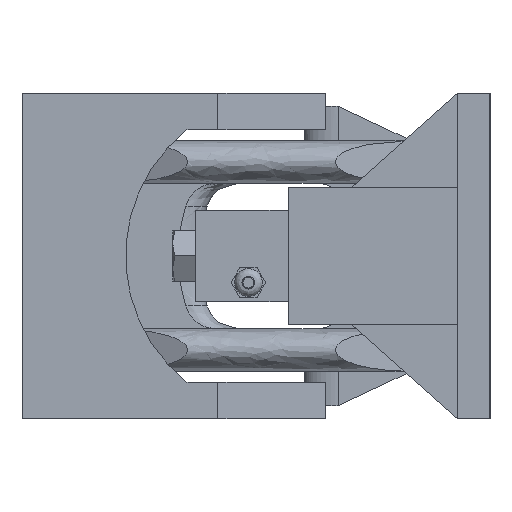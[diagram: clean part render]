
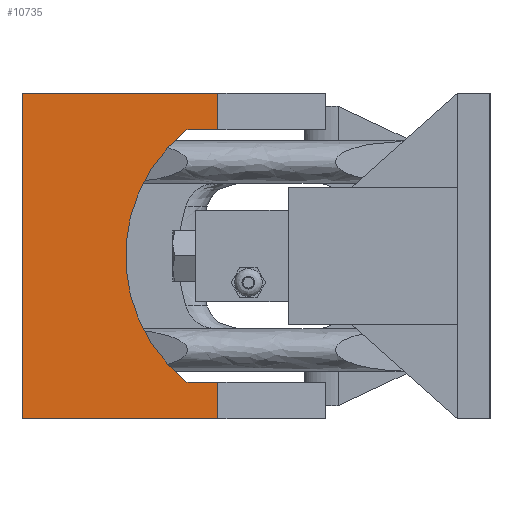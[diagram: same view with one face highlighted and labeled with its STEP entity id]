
A CAD part, left-side view. The second image highlights one B-rep face of the part: STEP entity #10735.
In plain terms, the highlighted planar face has unit normal (-1, 0, 0).
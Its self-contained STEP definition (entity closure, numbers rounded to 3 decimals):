
#422=PLANE('',#11574);
#1043=FACE_OUTER_BOUND('',#1676,.T.);
#1676=EDGE_LOOP('',(#9746,#9747,#9748,#9749,#9750,#9751,#9752,#9753));
#1858=CIRCLE('',#11533,75.);
#3117=LINE('',#46126,#3848);
#3131=LINE('',#49932,#3862);
#3137=LINE('',#49944,#3868);
#3141=LINE('',#49953,#3872);
#3178=LINE('',#50038,#3909);
#3184=LINE('',#50050,#3915);
#3186=LINE('',#50053,#3917);
#3848=VECTOR('',#13672,10.);
#3862=VECTOR('',#13708,10.);
#3868=VECTOR('',#13716,10.);
#3872=VECTOR('',#13724,10.);
#3909=VECTOR('',#13799,10.);
#3915=VECTOR('',#13817,10.);
#3917=VECTOR('',#13821,10.);
#4903=VERTEX_POINT('',#46122);
#4905=VERTEX_POINT('',#46125);
#4914=VERTEX_POINT('',#49908);
#4915=VERTEX_POINT('',#49909);
#4922=VERTEX_POINT('',#49928);
#4924=VERTEX_POINT('',#49931);
#4927=VERTEX_POINT('',#49938);
#4929=VERTEX_POINT('',#49942);
#6459=EDGE_CURVE('',#4905,#4903,#3117,.T.);
#6490=EDGE_CURVE('',#4914,#4915,#1858,.T.);
#6501=EDGE_CURVE('',#4924,#4922,#3131,.T.);
#6507=EDGE_CURVE('',#4927,#4929,#3137,.T.);
#6512=EDGE_CURVE('',#4915,#4927,#3141,.T.);
#6556=EDGE_CURVE('',#4922,#4914,#3178,.T.);
#6562=EDGE_CURVE('',#4905,#4929,#3184,.T.);
#6564=EDGE_CURVE('',#4903,#4924,#3186,.T.);
#9746=ORIENTED_EDGE('',*,*,#6512,.T.);
#9747=ORIENTED_EDGE('',*,*,#6507,.T.);
#9748=ORIENTED_EDGE('',*,*,#6562,.F.);
#9749=ORIENTED_EDGE('',*,*,#6459,.T.);
#9750=ORIENTED_EDGE('',*,*,#6564,.T.);
#9751=ORIENTED_EDGE('',*,*,#6501,.T.);
#9752=ORIENTED_EDGE('',*,*,#6556,.T.);
#9753=ORIENTED_EDGE('',*,*,#6490,.T.);
#10735=ADVANCED_FACE('',(#1043),#422,.T.);
#11533=AXIS2_PLACEMENT_3D('',#49910,#13691,#13692);
#11574=AXIS2_PLACEMENT_3D('',#50063,#13839,#13840);
#13672=DIRECTION('',(0.,0.,-1.));
#13691=DIRECTION('center_axis',(1.,0.,0.));
#13692=DIRECTION('ref_axis',(0.,0.617,-0.787));
#13708=DIRECTION('',(0.,0.,1.));
#13716=DIRECTION('',(0.,0.,1.));
#13724=DIRECTION('',(0.,-1.,0.));
#13799=DIRECTION('',(0.,1.,0.));
#13817=DIRECTION('',(0.,-1.,0.));
#13821=DIRECTION('',(0.,-1.,0.));
#13839=DIRECTION('center_axis',(-1.,0.,0.));
#13840=DIRECTION('ref_axis',(0.,0.,-1.));
#46122=CARTESIAN_POINT('',(-76.2,219.,-76.2));
#46125=CARTESIAN_POINT('',(-76.2,219.,76.2));
#46126=CARTESIAN_POINT('',(-76.2,219.,76.2));
#49908=CARTESIAN_POINT('',(-76.2,141.803,-59.));
#49909=CARTESIAN_POINT('',(-76.2,141.803,59.));
#49910=CARTESIAN_POINT('Origin',(-76.2,95.5,0.));
#49928=CARTESIAN_POINT('',(-76.2,127.3,-59.));
#49931=CARTESIAN_POINT('',(-76.2,127.3,-76.2));
#49932=CARTESIAN_POINT('',(-76.2,127.3,76.2));
#49938=CARTESIAN_POINT('',(-76.2,127.3,59.));
#49942=CARTESIAN_POINT('',(-76.2,127.3,76.2));
#49944=CARTESIAN_POINT('',(-76.2,127.3,76.2));
#49953=CARTESIAN_POINT('',(-76.2,164.984,59.));
#50038=CARTESIAN_POINT('',(-76.2,180.402,-59.));
#50050=CARTESIAN_POINT('',(-76.2,219.,76.2));
#50053=CARTESIAN_POINT('',(-76.2,219.,-76.2));
#50063=CARTESIAN_POINT('Origin',(-76.2,219.,76.2));
